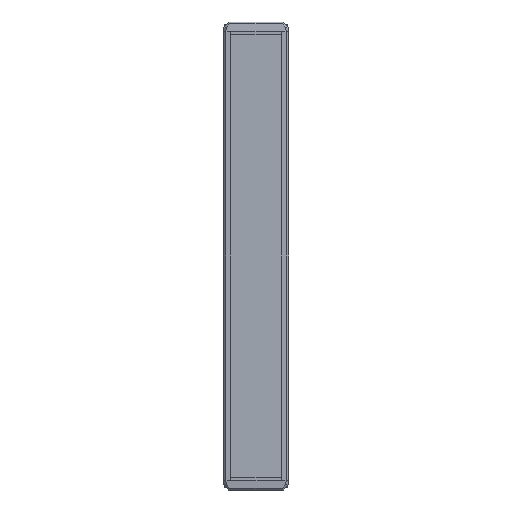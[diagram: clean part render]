
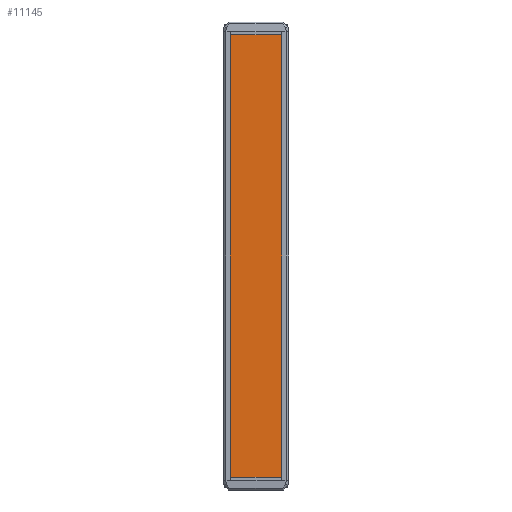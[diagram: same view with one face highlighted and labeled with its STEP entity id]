
A CAD part, front view. The second image highlights one B-rep face of the part: STEP entity #11145.
In plain terms, the highlighted planar face has unit normal (0, -1, 0).
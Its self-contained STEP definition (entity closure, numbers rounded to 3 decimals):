
#11014=DIRECTION('',(1.,0.,0.));
#11015=VECTOR('',#11014,34.6);
#11016=CARTESIAN_POINT('',(-17.3,0.,-138.1));
#11017=LINE('',#11016,#11015);
#11043=DIRECTION('',(0.,0.,1.));
#11044=VECTOR('',#11043,276.2);
#11045=CARTESIAN_POINT('',(-17.3,0.,-138.1));
#11046=LINE('',#11045,#11044);
#11064=DIRECTION('',(0.,0.,1.));
#11065=VECTOR('',#11064,276.2);
#11066=CARTESIAN_POINT('',(17.3,0.,-138.1));
#11067=LINE('',#11066,#11065);
#11071=DIRECTION('',(1.,0.,0.));
#11072=VECTOR('',#11071,34.6);
#11073=CARTESIAN_POINT('',(-17.3,0.,138.1));
#11074=LINE('',#11073,#11072);
#11099=CARTESIAN_POINT('',(-17.3,0.,-138.1));
#11100=CARTESIAN_POINT('',(17.3,0.,-138.1));
#11101=VERTEX_POINT('',#11099);
#11102=VERTEX_POINT('',#11100);
#11107=CARTESIAN_POINT('',(-17.3,0.,138.1));
#11108=CARTESIAN_POINT('',(17.3,0.,138.1));
#11109=VERTEX_POINT('',#11107);
#11110=VERTEX_POINT('',#11108);
#11131=CARTESIAN_POINT('',(-17.3,0.,-138.1));
#11132=DIRECTION('',(0.,-1.,0.));
#11133=DIRECTION('',(1.,0.,0.));
#11134=AXIS2_PLACEMENT_3D('',#11131,#11132,#11133);
#11135=PLANE('',#11134);
#11136=ORIENTED_EDGE('',*,*,#11120,.F.);
#11138=ORIENTED_EDGE('',*,*,#11137,.T.);
#11140=ORIENTED_EDGE('',*,*,#11139,.T.);
#11142=ORIENTED_EDGE('',*,*,#11141,.F.);
#11143=EDGE_LOOP('',(#11136,#11138,#11140,#11142));
#11144=FACE_OUTER_BOUND('',#11143,.F.);
#11120=EDGE_CURVE('',#11101,#11102,#11017,.T.);
#11137=EDGE_CURVE('',#11101,#11109,#11046,.T.);
#11139=EDGE_CURVE('',#11109,#11110,#11074,.T.);
#11141=EDGE_CURVE('',#11102,#11110,#11067,.T.);
#11145=ADVANCED_FACE('',(#11144),#11135,.T.);
